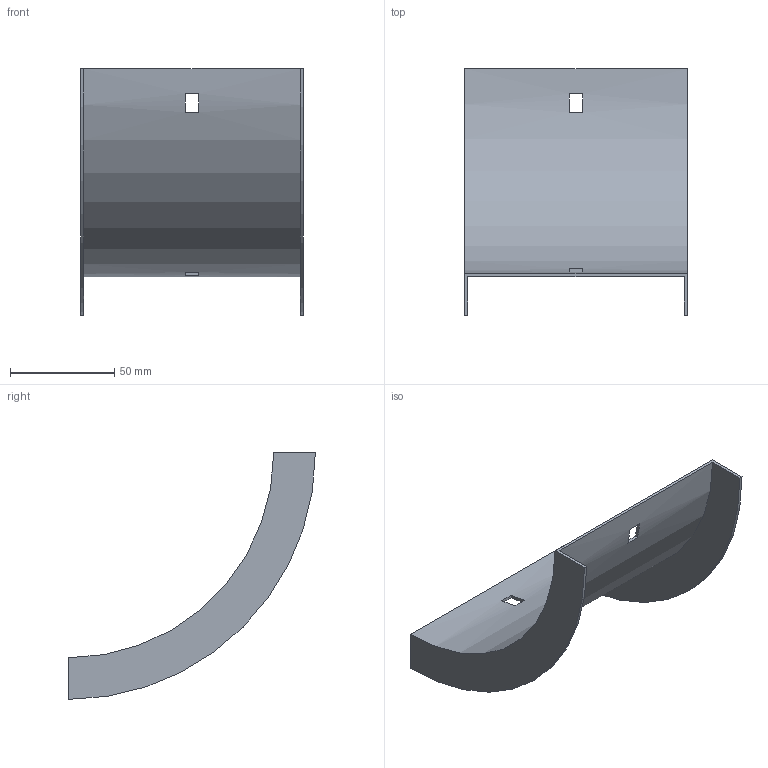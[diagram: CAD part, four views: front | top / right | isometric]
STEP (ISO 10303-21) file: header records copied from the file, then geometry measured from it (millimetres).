
FILE_DESCRIPTION (( 'STEP AP214' ), '1' );
FILE_NAME ('30N1R100.step', '2025-02-21T09:23:36', ( '' ), ( '' ), 'SwSTEP 2.0', 'SolidWorks 2023', '' );
FILE_SCHEMA (( 'AUTOMOTIVE_DESIGN' ));
Length unit declared in the file: millimetre
Products named in the file (1): 30N1R100
Bounding box: 107 x 118.5 x 118.5 mm (x, y, z)
Volume: 34368.5 mm3; surface area: 46905.9 mm2
Topology: 1 solids, 1 shells, 18 faces, 48 edges, 32 vertices
Faces by surface type: plane 14, cylinder 4
Entity records: 599 total; most frequent: DIRECTION 102, CARTESIAN_POINT 99, ORIENTED_EDGE 96, EDGE_CURVE 48, AXIS2_PLACEMENT_3D 35, VERTEX_POINT 32, VECTOR 32, LINE 32
